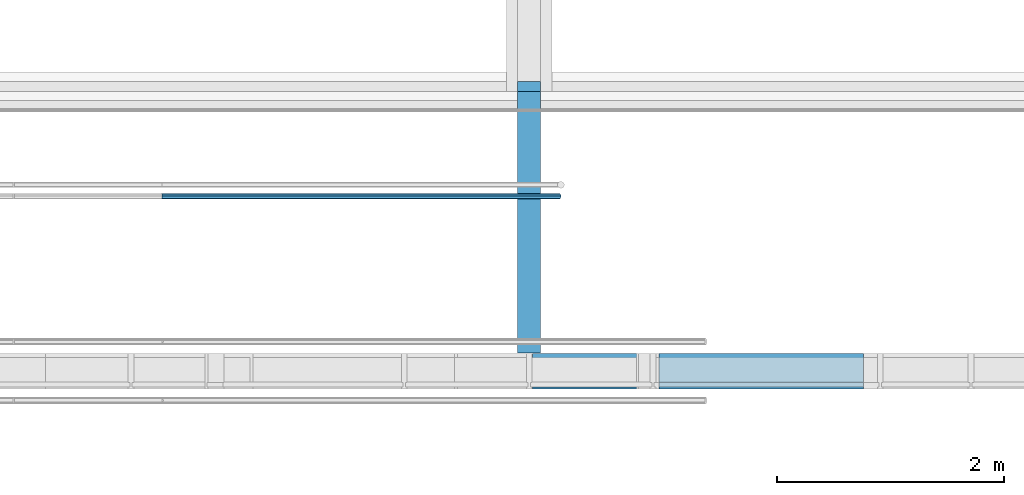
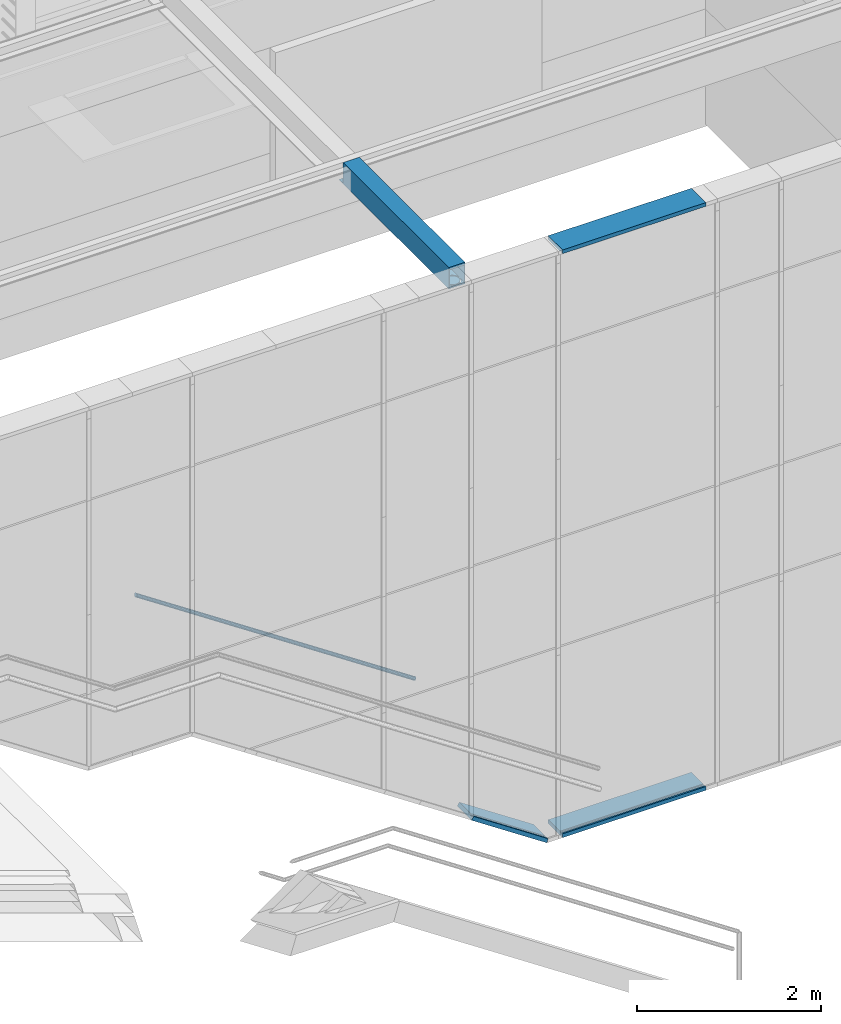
# One storey, part 18 of 137: 4 members, 1 beam, 2 elements without a shape of their own.
"""IFC2X3 building model written with IfcOpenShell, lengths in millimetres."""

from ifc_helpers import new_model, entity, si_unit, converted_unit, derived_unit, money_unit, direction, frame, origin_with_axes, place, context, subcontext, project, spatial, faceted_brep, material, type_object, element, aggregate, save


model = new_model("IFC2X3")

# Units and contexts
model_context = context("Model", 3, precision=0.01, world=origin_with_axes(), true_north=direction((0.0, 1.0)))
body_context = subcontext(model_context, "Body", "Model", "MODEL_VIEW")
ifc_project = project(units=[si_unit("LENGTHUNIT", "METRE", prefix="MILLI"), si_unit("AREAUNIT", "SQUARE_METRE"), si_unit("VOLUMEUNIT", "CUBIC_METRE"), converted_unit("PLANEANGLEUNIT", "DEGREE", entity("IfcPlaneAngleMeasure", 0.0174532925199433), si_unit("PLANEANGLEUNIT", "RADIAN"), dimensions=[0, 0, 0, 0, 0, 0, 0]), money_unit("EUR"), converted_unit("TIMEUNIT", "Year", entity("IfcTimeMeasure", 31556926.0), si_unit("TIMEUNIT", "SECOND"), dimensions=[0, 0, 1, 0, 0, 0, 0]), si_unit("MASSUNIT", "GRAM", prefix="KILO"), si_unit("THERMODYNAMICTEMPERATUREUNIT", "DEGREE_CELSIUS"), si_unit("LUMINOUSINTENSITYUNIT", "LUMEN"), si_unit("ENERGYUNIT", "JOULE", prefix="MEGA"), derived_unit("THERMALCONDUCTANCEUNIT", [(si_unit("POWERUNIT", "WATT"), 1), (si_unit("LENGTHUNIT", "METRE"), -1), (si_unit("THERMODYNAMICTEMPERATUREUNIT", "KELVIN"), -1)]), derived_unit("SPECIFICHEATCAPACITYUNIT", [(si_unit("ENERGYUNIT", "JOULE"), 1), (si_unit("MASSUNIT", "GRAM", prefix="KILO"), -1), (si_unit("THERMODYNAMICTEMPERATUREUNIT", "KELVIN"), -1)]), derived_unit("MASSDENSITYUNIT", [(si_unit("MASSUNIT", "GRAM", prefix="KILO"), 1), (si_unit("VOLUMEUNIT", "CUBIC_METRE"), -1)])], contexts=[model_context])

# Site, building, storey
site_placement = place(None, origin_with_axes())
site = spatial("IfcSite", under=ifc_project, at=site_placement, Name="Site", CompositionType="ELEMENT")
building_placement = place(site_placement, origin_with_axes())
building = spatial("IfcBuilding", under=site, at=building_placement, Name="Naam gebouw", CompositionType="ELEMENT")
storey_placement = place(building_placement, frame((0.0, 0.0, 3960.0), z_axis=(0.0, 0.0, 1.0), x_axis=(1.0, 0.0, 0.0)))
storey = spatial("IfcBuildingStorey", under=building, at=storey_placement, Name="1e verdieping", CompositionType="ELEMENT", Elevation=3960.0)

# Beam
ifc_material_1 = material(Name="Metaal - Staal C")
beam_type = type_object("IfcBeamType", Name="28 THQ zonder flens 01 202 x 285", PredefinedType="BEAM")
beam_placement = place(storey_placement, frame((17699.9994245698, 4480.0, 3859.999999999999), z_axis=(0.0, 0.0, 1.0), x_axis=(1.0, 0.0, 0.0)))
element("IfcBeam", 1, at=beam_placement, inside=storey, type_object=beam_type, material=ifc_material_1, Name="h METAAL_Regenwaterafvoer-x", ObjectType="BEAM", context=body_context, shape_type="Brep", body=[
    faceted_brep([(55.23723044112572, 163.7474765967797, -285.0000000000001), (70.95946302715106, 145.603052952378, -285.0000000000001), (80.93295985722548, 123.7641411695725, -285.0000000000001), (84.34972753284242, 99.99999999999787, -285.0000000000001), (80.93295985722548, 76.23585883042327, -285.0000000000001), (70.95946302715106, 54.39694704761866, -285.0000000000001), (55.23723044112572, 36.25252340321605, -285.0000000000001), (35.03998387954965, 23.27254119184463, -285.0000000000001), (12.00398414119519, 16.50856137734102, -285.0000000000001), (-12.00452907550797, 16.50856137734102, -285.0000000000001), (-35.04052881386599, 23.27254119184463, -285.0000000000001), (-55.23777537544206, 36.25252340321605, -285.0000000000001), (-70.9600079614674, 54.39694704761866, -285.0000000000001), (-80.93350479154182, 76.23585883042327, -285.0000000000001), (-84.35027246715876, 99.99999999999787, -285.0000000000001), (-80.93350479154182, 123.7641411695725, -285.0000000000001), (-70.9600079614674, 145.603052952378, -285.0000000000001), (-55.23777537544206, 163.7474765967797, -285.0000000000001), (-35.04052881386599, 176.7274588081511, -285.0000000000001), (-12.00452907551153, 183.4914386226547, -285.0000000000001), (12.00398414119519, 183.4914386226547, -285.0000000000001), (35.03998387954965, 176.7274588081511, -285.0000000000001), (55.23723044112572, 163.7474765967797, -264.9999709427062), (70.95946302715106, 145.603052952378, -264.9999709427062), (80.93295985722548, 123.7641411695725, -264.9999709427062), (84.34972753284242, 99.99999999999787, -264.9999709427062), (80.93295985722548, 76.23585883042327, -264.9999709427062), (70.95946302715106, 54.39694704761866, -264.9999709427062), (55.23723044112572, 36.25252340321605, -264.9999709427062), (35.03998387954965, 23.27254119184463, -264.9999709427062), (12.00398414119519, 16.50856137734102, -264.9999709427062), (-12.00452907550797, 16.50856137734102, -264.9999709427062), (-35.04052881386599, 23.27254119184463, -264.9999709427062), (-55.23777537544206, 36.25252340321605, -264.9999709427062), (-70.9600079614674, 54.39694704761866, -264.9999709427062), (-80.93350479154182, 76.23585883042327, -264.9999709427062), (-84.35027246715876, 99.99999999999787, -264.9999709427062), (-80.93350479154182, 123.7641411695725, -264.9999709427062), (-70.9600079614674, 145.603052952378, -264.9999709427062), (-55.23777537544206, 163.7474765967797, -264.9999709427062), (-35.04052881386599, 176.7274588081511, -264.9999709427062), (-12.00452907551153, 183.4914386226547, -264.9999709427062), (12.00398414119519, 183.4914386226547, -264.9999709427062), (35.03998387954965, 176.7274588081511, -264.9999709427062)], [[[0, 1, 2, 3, 4, 5, 6, 7, 8, 9, 10, 11, 12, 13, 14, 15, 16, 17, 18, 19, 20, 21]], [[0, 22, 23, 1]], [[1, 23, 24, 2]], [[2, 24, 25, 3]], [[3, 25, 26, 4]], [[4, 26, 27, 5]], [[5, 27, 28, 6]], [[6, 28, 29, 7]], [[7, 29, 30, 8]], [[8, 30, 31, 9]], [[9, 31, 32, 10]], [[10, 32, 33, 11]], [[11, 33, 34, 12]], [[12, 34, 35, 13]], [[13, 35, 36, 14]], [[14, 36, 37, 15]], [[15, 37, 38, 16]], [[16, 38, 39, 17]], [[17, 39, 40, 18]], [[18, 40, 41, 19]], [[19, 41, 42, 20]], [[20, 42, 43, 21]], [[21, 43, 22, 0]], [[28, 27, 26, 25, 24, 23, 22, 43, 42, 41, 40, 39, 38, 37, 36, 35, 34, 33, 32, 31, 30, 29]]]),
    faceted_brep([(55.23723044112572, 163.7474765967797, -34.99999763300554), (70.95946302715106, 145.603052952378, -34.99999763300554), (80.93295985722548, 123.7641411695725, -34.99999763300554), (84.34972753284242, 99.99999999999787, -34.99999763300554), (80.93295985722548, 76.23585883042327, -34.99999763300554), (70.95946302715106, 54.39694704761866, -34.99999763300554), (55.23723044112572, 36.25252340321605, -34.99999763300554), (35.03998387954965, 23.27254119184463, -34.99999763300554), (12.00398414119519, 16.50856137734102, -34.99999763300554), (-12.00452907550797, 16.50856137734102, -34.99999763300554), (-35.04052881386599, 23.27254119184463, -34.99999763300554), (-55.23777537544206, 36.25252340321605, -34.99999763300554), (-70.9600079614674, 54.39694704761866, -34.99999763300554), (-80.93350479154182, 76.23585883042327, -34.99999763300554), (-84.35027246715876, 99.99999999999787, -34.99999763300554), (-80.93350479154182, 123.7641411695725, -34.99999763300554), (-70.9600079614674, 145.603052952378, -34.99999763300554), (-55.23777537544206, 163.7474765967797, -34.99999763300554), (-35.04052881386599, 176.7274588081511, -34.99999763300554), (-12.00452907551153, 183.4914386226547, -34.99999763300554), (12.00398414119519, 183.4914386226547, -34.99999763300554), (35.03998387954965, 176.7274588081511, -34.99999763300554), (70.95946302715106, 145.603052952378, -24.00000000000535), (55.23723044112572, 163.7474765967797, -24.00000000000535), (80.93295985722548, 123.7641411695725, -24.00000000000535), (84.34972753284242, 99.99999999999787, -24.00000000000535), (80.93295985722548, 76.23585883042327, -24.00000000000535), (70.95946302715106, 54.39694704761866, -24.00000000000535), (55.23723044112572, 36.25252340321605, -24.00000000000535), (35.03998387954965, 23.27254119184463, -24.00000000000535), (12.00398414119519, 16.50856137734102, -24.00000000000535), (-12.00452907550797, 16.50856137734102, -24.00000000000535), (-35.04052881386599, 23.27254119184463, -24.00000000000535), (-55.23777537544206, 36.25252340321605, -24.00000000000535), (-70.9600079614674, 54.39694704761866, -24.00000000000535), (-80.93350479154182, 76.23585883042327, -24.00000000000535), (-84.35027246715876, 99.99999999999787, -24.00000000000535), (-80.93350479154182, 123.7641411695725, -24.00000000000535), (-70.9600079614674, 145.603052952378, -24.00000000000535), (-55.23777537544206, 163.7474765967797, -24.00000000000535), (-35.04052881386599, 176.7274588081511, -24.00000000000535), (-12.00452907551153, 183.4914386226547, -24.00000000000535), (12.00398414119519, 183.4914386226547, -24.00000000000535), (35.03998387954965, 176.7274588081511, -24.00000000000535), (92.92662202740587, 127.2857981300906, -24.00000000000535), (96.84972753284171, 99.99999999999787, -24.00000000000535), (92.92662202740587, 72.71420186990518, -24.00000000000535), (81.47513218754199, 47.638936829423, -24.00000000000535), (63.42298961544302, 26.8056537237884, -24.00000000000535), (40.23267154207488, 11.90214124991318, -24.00000000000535), (13.78291961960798, 4.13579335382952, -24.00000000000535), (-13.78346455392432, 4.13579335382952, -24.00000000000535), (-40.23321647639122, 11.90214124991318, -24.00000000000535), (-63.42353454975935, 26.8056537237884, -24.00000000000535), (-81.47567712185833, 47.638936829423, -24.00000000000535), (-92.92716696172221, 72.71420186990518, -24.00000000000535), (-96.85027246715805, 99.99999999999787, -24.00000000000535), (-92.92716696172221, 127.2857981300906, -24.00000000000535), (-81.47567712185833, 152.3610631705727, -24.00000000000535), (-63.42353454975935, 173.1943462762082, -24.00000000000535), (-40.23321647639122, 188.0978587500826, -24.00000000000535), (-13.78346455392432, 195.8642066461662, -24.00000000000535), (13.78291961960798, 195.8642066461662, -24.00000000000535), (40.23267154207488, 188.0978587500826, -24.00000000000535), (63.42298961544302, 173.1943462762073, -24.00000000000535), (81.47513218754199, 152.3610631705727, -24.00000000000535), (92.92662202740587, 127.2857981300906, -264.9999709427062), (92.92662202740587, 127.2857981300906, -285.0000000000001), (96.84972753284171, 99.99999999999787, -285.0000000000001), (92.92662202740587, 127.2857981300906, -34.99999763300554), (95.00000665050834, 112.8650913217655, -34.99999763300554), (95.00000632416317, 112.8650935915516, -264.9999998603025), (92.92662202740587, 72.71420186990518, -285.0000000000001), (92.92662202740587, 72.71420186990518, -264.9999709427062), (95.00000639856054, 87.13490692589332, -265.000000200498), (95.00000665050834, 87.13490867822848, -34.99999763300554), (92.92662202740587, 72.71420186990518, -34.99999763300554), (81.47513218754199, 47.638936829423, -34.99999763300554), (63.42298961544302, 26.8056537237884, -34.99999763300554), (40.23267154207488, 11.90214124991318, -34.99999763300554), (13.78291961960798, 4.13579335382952, -34.99999763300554), (-13.78346455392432, 4.13579335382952, -34.99999763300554), (-40.23321647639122, 11.90214124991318, -34.99999763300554), (-63.42353454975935, 26.8056537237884, -34.99999763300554), (-81.47567712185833, 47.638936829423, -34.99999763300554), (-92.92716696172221, 72.71420186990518, -34.99999763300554), (-95.00000318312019, 87.13109446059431, -34.99999763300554), (-95.00000306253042, 87.13109362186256, -265.0000002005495), (-92.92716696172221, 72.71420186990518, -264.9999709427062), (-92.92716696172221, 72.71420186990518, -285.0000000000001), (-96.85027246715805, 99.99999999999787, -285.0000000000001), (-95.00000302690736, 112.8689066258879, -264.9999998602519), (-95.00000318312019, 112.8689055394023, -34.99999763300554), (-92.92716696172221, 127.2857981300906, -34.99999763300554), (-92.92716696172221, 127.2857981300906, -285.0000000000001), (-92.92716696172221, 127.2857981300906, -264.9999709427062), (-81.47567712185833, 152.3610631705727, -34.99999763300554), (-63.42353454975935, 173.1943462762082, -34.99999763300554), (-40.23321647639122, 188.0978587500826, -34.99999763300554), (-13.78346455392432, 195.8642066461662, -34.99999763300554), (13.78291961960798, 195.8642066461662, -34.99999763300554), (40.23267154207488, 188.0978587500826, -34.99999763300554), (63.42298961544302, 173.1943462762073, -34.99999763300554), (81.47513218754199, 152.3610631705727, -34.99999763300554), (81.47513218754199, 152.3610631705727, -264.9999709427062), (81.47513218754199, 152.3610631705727, -285.0000000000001), (-101.0000036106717, 0.0, -285.0000000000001), (-101.0000036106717, 2389.999999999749, -285.0000000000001), (101.0000022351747, 2389.999999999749, -285.0000000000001), (101.0000022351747, 0.0, -285.0000000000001), (63.42298961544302, 26.8056537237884, -285.0000000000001), (81.47513218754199, 47.638936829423, -285.0000000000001), (63.42298961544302, 173.1943462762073, -285.0000000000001), (40.23267154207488, 188.0978587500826, -285.0000000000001), (13.78291961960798, 195.8642066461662, -285.0000000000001), (-13.78346455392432, 195.8642066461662, -285.0000000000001), (-40.23321647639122, 188.0978587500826, -285.0000000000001), (-63.42353454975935, 173.1943462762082, -285.0000000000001), (-81.47567712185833, 152.3610631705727, -285.0000000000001), (-81.47567712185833, 47.638936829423, -285.0000000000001), (-63.42353454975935, 26.8056537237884, -285.0000000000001), (-40.23321647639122, 11.90214124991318, -285.0000000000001), (-13.78346455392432, 4.13579335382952, -285.0000000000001), (13.78291961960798, 4.13579335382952, -285.0000000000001), (40.23267154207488, 11.90214124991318, -285.0000000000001), (-95.00000318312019, 2299.999999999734, -34.99999763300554), (95.00000665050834, 2299.99999999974, -34.99999763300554), (95.00000000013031, 2299.999999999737, -264.9999709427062), (95.00000000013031, 2299.999999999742, -259.9999999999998), (-94.99999999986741, 2299.999999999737, -264.9999709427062), (-81.47567712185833, 152.3610631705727, -264.9999709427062), (-63.42353454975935, 173.1943462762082, -264.9999709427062), (-40.23321647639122, 188.0978587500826, -264.9999709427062), (-13.78346455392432, 195.8642066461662, -264.9999709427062), (13.78291961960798, 195.8642066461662, -264.9999709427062), (40.23267154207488, 188.0978587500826, -264.9999709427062), (63.42298961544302, 173.1943462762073, -264.9999709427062), (81.47513218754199, 47.638936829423, -264.9999709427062), (-81.47567712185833, 47.638936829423, -264.9999709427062), (-95.00000318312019, 0.0, -265.0000013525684), (95.00000665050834, 0.0, -265.0000013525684), (63.42298961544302, 26.8056537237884, -264.9999709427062), (40.23267154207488, 11.90214124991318, -264.9999709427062), (13.78291961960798, 4.13579335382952, -264.9999709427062), (-13.78346455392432, 4.13579335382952, -264.9999709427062), (-40.23321647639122, 11.90214124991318, -264.9999709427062), (-63.42353454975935, 26.8056537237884, -264.9999709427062), (95.00000665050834, 0.0, -34.99999763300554), (-95.00000318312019, 0.0, -34.99999763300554), (-94.99999999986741, 2299.999999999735, -259.9999999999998), (-100.9999999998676, 2299.999999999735, -259.9999999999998), (-100.9999999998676, 2299.999999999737, -264.9999709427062), (-101.0000036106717, 2299.999999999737, -279.9999709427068), (-101.0000036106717, 2389.999999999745, -279.9999709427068), (-101.0000036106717, 0.0, 0.0), (-101.0000036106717, 2299.999999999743, 2.078693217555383e-05), (101.0000022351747, 2389.999999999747, -279.9999709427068), (101.0000022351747, 2299.999999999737, -279.9999709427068), (101.0000000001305, 2299.999999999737, -264.9999709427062), (101.0000000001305, 2299.999999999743, -259.9999999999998), (101.0000022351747, 2299.999999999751, 2.102552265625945e-05), (101.0000022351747, 0.0, 0.0)], [[[0, 1, 2, 3, 4, 5, 6, 7, 8, 9, 10, 11, 12, 13, 14, 15, 16, 17, 18, 19, 20, 21]], [[22, 1, 0, 23]], [[24, 2, 1, 22]], [[25, 3, 2, 24]], [[26, 4, 3, 25]], [[27, 5, 4, 26]], [[28, 6, 5, 27]], [[29, 7, 6, 28]], [[30, 8, 7, 29]], [[31, 9, 8, 30]], [[32, 10, 9, 31]], [[33, 11, 10, 32]], [[34, 12, 11, 33]], [[35, 13, 12, 34]], [[36, 14, 13, 35]], [[37, 15, 14, 36]], [[38, 16, 15, 37]], [[39, 17, 16, 38]], [[40, 18, 17, 39]], [[41, 19, 18, 40]], [[42, 20, 19, 41]], [[43, 21, 20, 42]], [[23, 0, 21, 43]], [[44, 45, 46, 47, 48, 49, 50, 51, 52, 53, 54, 55, 56, 57, 58, 59, 60, 61, 62, 63, 64, 65], [26, 25, 24, 22, 23, 43, 42, 41, 40, 39, 38, 37, 36, 35, 34, 33, 32, 31, 30, 29, 28, 27]], [[66, 67, 68, 45, 44, 69, 70, 71]], [[45, 68, 72, 73, 74, 75, 76, 46]], [[46, 76, 77, 47]], [[47, 77, 78, 48]], [[48, 78, 79, 49]], [[49, 79, 80, 50]], [[50, 80, 81, 51]], [[51, 81, 82, 52]], [[52, 82, 83, 53]], [[53, 83, 84, 54]], [[54, 84, 85, 55]], [[55, 85, 86, 87, 88, 89, 90, 56]], [[91, 92, 93, 57, 56, 90, 94, 95]], [[57, 93, 96, 58]], [[58, 96, 97, 59]], [[59, 97, 98, 60]], [[60, 98, 99, 61]], [[61, 99, 100, 62]], [[62, 100, 101, 63]], [[63, 101, 102, 64]], [[64, 102, 103, 65]], [[65, 103, 69, 44]], [[67, 66, 104, 105]], [[106, 107, 108, 109], [110, 111, 72, 68, 67, 105, 112, 113, 114, 115, 116, 117, 118, 94, 90, 89, 119, 120, 121, 122, 123, 124]], [[96, 93, 92, 125, 126, 70, 69, 103, 102, 101, 100, 99, 98, 97]], [[127, 71, 70, 126, 128]], [[104, 66, 71, 127, 129, 91, 95, 130, 131, 132, 133, 134, 135, 136]], [[111, 137, 73, 72]], [[138, 88, 87, 139, 140, 74, 73, 137, 141, 142, 143, 144, 145, 146]], [[147, 75, 74, 140]], [[78, 77, 76, 75, 147, 148, 86, 85, 84, 83, 82, 81, 80, 79]], [[139, 87, 86, 148]], [[89, 88, 138, 119]], [[125, 92, 91, 129, 149]], [[118, 130, 95, 94]], [[105, 104, 136, 112]], [[150, 151, 152, 153, 107, 106, 154, 155]], [[108, 107, 153, 156]], [[156, 157, 158, 159, 160, 161, 109, 108]], [[161, 154, 106, 109], [147, 140, 139, 148]], [[110, 141, 137, 111]], [[112, 136, 135, 113]], [[113, 135, 134, 114]], [[114, 134, 133, 115]], [[115, 133, 132, 116]], [[116, 132, 131, 117]], [[117, 131, 130, 118]], [[119, 138, 146, 120]], [[120, 146, 145, 121]], [[121, 145, 144, 122]], [[122, 144, 143, 123]], [[123, 143, 142, 124]], [[124, 142, 141, 110]], [[152, 151, 150, 155, 160, 159, 158, 157], [126, 125, 149, 129, 127, 128]], [[153, 152, 157, 156]], [[155, 154, 161, 160]]]),
])

# Railing, member
railing_type = type_object("IfcRailingType", Name="Railing Type", PredefinedType="NOTDEFINED")
railing_placement = place(storey_placement, frame((18520.00002097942, 5850.000227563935, -3240.0), z_axis=(0.0, 0.0, 1.0), x_axis=(1.0, 0.0, 0.0)))
railing = element("IfcRailing", 2, at=railing_placement, inside=storey, type_object=railing_type, Name="34_Reling-x", PredefinedType="NOTDEFINED")
ifc_material_2 = material(Name="Metaal - RVS")
member_type_1 = type_object("IfcMemberType", Name="IfcMember", PredefinedType="USERDEFINED")
member_1_placement = place(railing_placement, frame((-2294.999996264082, 9.999883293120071, 645.9989583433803), z_axis=(0.0, 0.0, 1.0), x_axis=(1.0, 0.0, 0.0)))
member_1 = element("IfcMember", 3, at=member_1_placement, type_object=member_type_1, material=ifc_material_2, Name="h3 Staal legeringen_Handregel-x", context=body_context, shape_type="Brep", body=[
    faceted_brep([(1741.603991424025, -24.14990937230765, 33.90702704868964), (1743.930184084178, -23.78301648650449, 37.39631606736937), (-1761.042316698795, -23.78319700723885, 2374.044645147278), (-1762.312037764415, -24.15008944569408, 2369.851041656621), (1739.277798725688, -23.78301672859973, 30.41773803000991), (1737.022286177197, -22.69348640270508, 27.03446929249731), (1734.905986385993, -20.91442322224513, 23.86001974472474), (1732.993202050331, -18.49988312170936, 20.99084342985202), (1731.342052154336, -15.52323068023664, 18.51411881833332), (1730.002706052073, -12.07490997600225, 16.50509993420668), (1729.015859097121, -8.2596964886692, 15.02482979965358), (1728.411496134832, -4.193513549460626, 14.11828567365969), (1728.207980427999, 8.993060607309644e-05, 13.81301244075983), (1728.411495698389, 4.193693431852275, 14.11828567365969), (1729.015858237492, 8.259876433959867, 15.02482979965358), (1730.002704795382, 12.07509002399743, 16.50509993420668), (1731.342050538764, 15.52341086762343, 18.51411881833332), (1732.993200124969, 18.50006348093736, 20.99084342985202), (1734.905984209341, 20.91460378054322, 23.86001974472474), (1737.022283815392, 22.69366718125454, 27.03446929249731), (1739.277796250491, 23.78319774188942, 30.41773803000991), (1741.60398891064, 24.15009062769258, 33.90702704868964), (1743.930181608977, 23.78319798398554, 37.39631606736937), (1746.185694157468, 22.69366765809, 40.77958480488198), (1748.301993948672, 20.91460447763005, 43.95403435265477), (1750.214778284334, 18.50006437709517, 46.8232106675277), (1751.86592818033, 15.52341193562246, 49.2999352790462), (1753.205274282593, 12.07509123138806, 51.30895416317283), (1754.192121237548, 8.25987774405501, 52.78922429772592), (1754.796484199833, 4.193694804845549, 53.69576842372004), (1754.999999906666, 9.132477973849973e-05, 54.0010416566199), (1754.796484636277, -4.193512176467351, 53.69576842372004), (1754.192122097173, -8.259695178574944, 52.78922429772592), (1753.205275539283, -12.0749087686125, 51.30895416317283), (1751.865929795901, -15.52322961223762, 49.2999352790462), (1750.214780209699, -18.49988222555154, 46.8232106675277), (1748.301996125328, -20.91442252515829, 43.95403435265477), (1746.185696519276, -22.69348592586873, 40.77958480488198), (-1759.811175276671, -22.69366688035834, 2378.110828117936), (-1758.656021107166, -20.9146038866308, 2381.926041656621), (-1757.611952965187, -18.50006395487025, 2385.374362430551), (-1756.710694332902, -15.52341165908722, 2388.351014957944), (-1755.979629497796, -12.07509107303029, 2390.765555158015), (-1755.440971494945, -8.259877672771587, 2392.5446184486), (-1755.111087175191, -4.193694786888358, 2393.634148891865), (-1754.999999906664, -9.132477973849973e-05, 2394.00104165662), (-1755.111085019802, 4.193512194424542, 2393.634148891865), (-1755.440967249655, 8.25969524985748, 2392.5446184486), (-1755.979623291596, 12.07490892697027, 2390.765555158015), (-1756.710686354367, 15.52322988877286, 2388.351014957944), (-1757.611943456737, 18.49988264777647, 2385.374362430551), (-1758.656010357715, 20.91442311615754, 2381.926041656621), (-1759.811163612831, 22.69348670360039, 2378.110828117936), (-1761.04230447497, 23.78301746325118, 2374.044645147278), (-1762.312025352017, 24.14991055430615, 2369.851041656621), (-1763.581746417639, 23.78301811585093, 2365.657438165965), (-1764.812887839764, 22.69348798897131, 2361.591255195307), (-1765.968042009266, 20.91442499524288, 2357.776041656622), (-1767.012110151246, 18.49988506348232, 2354.327720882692), (-1767.913368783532, 15.52323276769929, 2351.351068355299), (-1768.644433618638, 12.07491218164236, 2348.936528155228), (-1769.183091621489, 8.25969878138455, 2347.157464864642), (-1769.512975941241, 4.193515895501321, 2346.067934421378), (-1769.624063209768, -8.75666081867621e-05, 2345.701041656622), (-1769.512978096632, -4.193691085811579, 2346.067934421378), (-1769.183095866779, -8.259874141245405, 2347.157464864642), (-1768.644439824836, -12.07508781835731, 2348.936528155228), (-1767.913376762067, -15.52340878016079, 2351.351068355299), (-1767.012119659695, -18.50006153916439, 2354.327720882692), (-1765.968052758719, -20.91460200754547, 2357.776041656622), (-1764.812899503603, -22.69366559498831, 2361.591255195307), (-1763.581758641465, -23.7831963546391, 2365.657438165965)], [[[0, 1, 2, 3]], [[0, 4, 5, 6, 7, 8, 9, 10, 11, 12, 13, 14, 15, 16, 17, 18, 19, 20, 21, 22, 23, 24, 25, 26, 27, 28, 29, 30, 31, 32, 33, 34, 35, 36, 37, 1]], [[1, 37, 38, 2]], [[3, 2, 38, 39, 40, 41, 42, 43, 44, 45, 46, 47, 48, 49, 50, 51, 52, 53, 54, 55, 56, 57, 58, 59, 60, 61, 62, 63, 64, 65, 66, 67, 68, 69, 70, 71]], [[4, 0, 3, 71]], [[5, 4, 71, 70]], [[6, 5, 70, 69]], [[7, 6, 69, 68]], [[8, 7, 68, 67]], [[9, 8, 67, 66]], [[10, 9, 66, 65]], [[11, 10, 65, 64]], [[12, 11, 64, 63]], [[13, 12, 63, 62]], [[14, 13, 62, 61]], [[15, 14, 61, 60]], [[16, 15, 60, 59]], [[17, 16, 59, 58]], [[18, 17, 58, 57]], [[19, 18, 57, 56]], [[20, 19, 56, 55]], [[21, 20, 55, 54]], [[22, 21, 54, 53]], [[23, 22, 53, 52]], [[24, 23, 52, 51]], [[25, 24, 51, 50]], [[26, 25, 50, 49]], [[27, 26, 49, 48]], [[28, 27, 48, 47]], [[29, 28, 47, 46]], [[30, 29, 46, 45]], [[31, 30, 45, 44]], [[32, 31, 44, 43]], [[33, 32, 43, 42]], [[34, 33, 42, 41]], [[35, 34, 41, 40]], [[36, 35, 40, 39]], [[37, 36, 39, 38]]]),
])
aggregate(railing, [member_1])

# Curtain wall, members
curtain_wall_type = type_object("IfcCurtainWallType", Name="Curtain Wall Type", PredefinedType="NOTDEFINED")
curtain_wall_placement = place(storey_placement, frame((8473.014787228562, 4364.43626274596, -3949.999921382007), z_axis=(0.0, 0.0, 1.0), x_axis=(1.0, 0.0, 0.0)))
curtain_wall = element("IfcCurtainWall", 4, at=curtain_wall_placement, inside=storey, type_object=curtain_wall_type, Name="21_Vliesgevel-x")
ifc_material_3 = material(Name="Metaal - Staal AFW")
member_type_2 = type_object("IfcMemberType", Name="Boundary Frame 50 x 313", PredefinedType="MULLION")
member_2_placement = place(curtain_wall_placement, frame((10369.94164561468, -161.4362627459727, 3.861439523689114e-05), z_axis=(1.0, 0.0, 0.0), x_axis=(0.0, 0.0, 1.0)))
member_2 = element("IfcMember", 5, at=member_2_placement, type_object=member_type_2, material=ifc_material_3, Name="h METAAL_Kader-x", ObjectType="MULLION", context=body_context, shape_type="Brep", body=[
    faceted_brep([(35.0, -17.4000000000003, 0.0), (35.0, 20.99999999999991, 0.0), (35.0, 20.99999999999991, 1800.000000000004), (35.0, -17.4000000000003, 1800.000000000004), (15.0, -17.4000000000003, 0.0), (15.0, 20.99999999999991, 0.0), (15.0, 20.99999999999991, 1800.000000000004), (15.0, -17.4000000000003, 1800.000000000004)], [[[0, 1, 2, 3]], [[0, 4, 5, 1]], [[1, 5, 6, 2]], [[3, 2, 6, 7]], [[4, 0, 3, 7]], [[5, 4, 7, 6]]]),
    faceted_brep([(15.0, -20.99999999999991, 0.0), (15.0, 20.99999999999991, 0.0), (15.0, 20.99999999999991, 1800.000000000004), (15.0, -20.99999999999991, 1800.000000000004), (0.0, -20.99999999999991, 0.0), (0.0, 20.99999999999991, 0.0), (0.0, 20.99999999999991, 1800.000000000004), (0.0, -20.99999999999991, 1800.000000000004)], [[[0, 1, 2, 3]], [[0, 4, 5, 1]], [[1, 5, 6, 2]], [[3, 2, 6, 7]], [[4, 0, 3, 7]], [[5, 4, 7, 6]]]),
    faceted_brep([(49.99999999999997, -272.0000000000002, 0.0), (50.0, -17.4000000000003, 0.0), (50.0, -17.4000000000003, 1800.000000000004), (49.99999999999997, -272.0000000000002, 1800.000000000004), (0.0, -272.0000000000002, 0.0), (0.0, -17.4000000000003, 0.0), (0.0, -17.4000000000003, 1800.000000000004), (0.0, -272.0000000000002, 1800.000000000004)], [[[0, 1, 2, 3]], [[0, 4, 5, 1]], [[1, 5, 6, 2]], [[3, 2, 6, 7]], [[4, 0, 3, 7]], [[5, 4, 7, 6]]]),
    faceted_brep([(0.0, 41.00000000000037, 0.0), (0.0, 20.99999999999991, 0.0), (0.0, 20.99999999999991, 1800.000000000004), (0.0, 41.00000000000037, 1800.000000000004), (50.00000000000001, 41.00000000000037, 0.0), (50.0, 20.99999999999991, 0.0), (50.0, 20.99999999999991, 1800.000000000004), (50.00000000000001, 41.00000000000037, 1800.000000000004)], [[[0, 1, 2, 3]], [[0, 4, 5, 1]], [[1, 5, 6, 2]], [[3, 2, 6, 7]], [[4, 0, 3, 7]], [[5, 4, 7, 6]]]),
])
member_3_placement = place(curtain_wall_placement, frame((9226.979721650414, -161.4362627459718, 631.2872051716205), z_axis=(0.8320503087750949, 0.0, -0.5547001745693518), x_axis=(0.5547001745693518, 0.0, 0.8320503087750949)))
member_3 = element("IfcMember", 6, at=member_3_placement, type_object=member_type_2, material=ifc_material_3, Name="h METAAL_Kader-x", ObjectType="MULLION", context=body_context, shape_type="Brep", body=[
    faceted_brep([(35.00000000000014, -17.4000000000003, 0.0), (35.00000000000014, 20.99999999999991, 0.0), (34.99999999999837, 20.99999999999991, 1127.472021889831), (34.99999999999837, -17.4000000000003, 1127.472021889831), (15.00000000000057, -17.4000000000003, 0.0), (15.00000000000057, 20.99999999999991, 0.0), (15.00000000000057, 20.99999999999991, 1133.527534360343), (15.00000000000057, -17.4000000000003, 1133.527534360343)], [[[0, 1, 2, 3]], [[0, 4, 5, 1]], [[1, 5, 6, 2]], [[3, 2, 6, 7]], [[4, 0, 3, 7]], [[5, 4, 7, 6]]]),
    faceted_brep([(15.00000000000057, -20.99999999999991, 0.0), (15.00000000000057, 20.99999999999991, 0.0), (15.00000000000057, 20.99999999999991, 1133.527534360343), (15.00000000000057, -20.99999999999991, 1133.527534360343), (0.0, -20.99999999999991, 0.0), (0.0, 20.99999999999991, 0.0), (0.0, 20.99999999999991, 1138.069168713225), (0.0, -20.99999999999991, 1138.069168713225)], [[[0, 1, 2, 3]], [[0, 4, 5, 1]], [[1, 5, 6, 2]], [[3, 2, 6, 7]], [[4, 0, 3, 7]], [[5, 4, 7, 6]]]),
    faceted_brep([(50.00000000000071, -272.0000000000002, 0.0), (50.00000000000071, -17.4000000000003, 0.0), (49.99999999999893, -17.4000000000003, 1122.930387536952), (49.99999999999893, -272.0000000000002, 1122.930387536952), (0.0, -272.0000000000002, 0.0), (0.0, -17.4000000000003, 0.0), (0.0, -17.4000000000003, 1138.069168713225), (0.0, -272.0000000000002, 1138.069168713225)], [[[0, 1, 2, 3]], [[0, 4, 5, 1]], [[1, 5, 6, 2]], [[3, 2, 6, 7]], [[4, 0, 3, 7]], [[5, 4, 7, 6]]]),
    faceted_brep([(0.0, 41.00000000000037, 0.0), (0.0, 20.99999999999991, 0.0), (0.0, 20.99999999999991, 1138.069168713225), (0.0, 41.00000000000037, 1138.069168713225), (50.00000000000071, 41.00000000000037, 0.0), (50.00000000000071, 20.99999999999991, 0.0), (49.99999999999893, 20.99999999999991, 1122.930387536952), (49.99999999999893, 41.00000000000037, 1122.930387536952)], [[[0, 1, 2, 3]], [[0, 4, 5, 1]], [[1, 5, 6, 2]], [[3, 2, 6, 7]], [[4, 0, 3, 7]], [[5, 4, 7, 6]]]),
])
member_4_placement = place(curtain_wall_placement, frame((10369.94164561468, -161.4362627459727, 7800.000020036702), z_axis=(1.0, 0.0, 0.0), x_axis=(0.0, 0.0, 1.0)))
member_4 = element("IfcMember", 7, at=member_4_placement, type_object=member_type_2, material=ifc_material_3, Name="h METAAL_Kader-x", ObjectType="MULLION", context=body_context, shape_type="Brep", body=[
    faceted_brep([(-35.00000000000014, -17.4000000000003, 0.0), (-35.00000000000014, -17.4000000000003, 1800.000000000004), (-35.00000000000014, 20.99999999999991, 1800.000000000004), (-35.00000000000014, 20.99999999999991, 0.0), (-14.99999999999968, -17.4000000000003, 0.0), (-14.99999999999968, -17.4000000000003, 1800.000000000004), (-14.99999999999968, 20.99999999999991, 1800.000000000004), (-14.99999999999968, 20.99999999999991, 0.0)], [[[0, 1, 2, 3]], [[4, 5, 1, 0]], [[1, 5, 6, 2]], [[3, 2, 6, 7]], [[0, 3, 7, 4]], [[7, 6, 5, 4]]]),
    faceted_brep([(-14.99999999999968, -20.99999999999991, 0.0), (-14.99999999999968, -20.99999999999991, 1800.000000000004), (-14.99999999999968, 20.99999999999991, 1800.000000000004), (-14.99999999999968, 20.99999999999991, 0.0), (0.0, -20.99999999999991, 0.0), (0.0, -20.99999999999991, 1800.000000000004), (0.0, 20.99999999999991, 1800.000000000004), (0.0, 20.99999999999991, 0.0)], [[[0, 1, 2, 3]], [[4, 5, 1, 0]], [[1, 5, 6, 2]], [[3, 2, 6, 7]], [[0, 3, 7, 4]], [[7, 6, 5, 4]]]),
    faceted_brep([(-49.99999999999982, -272.0000000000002, 0.0), (-49.99999999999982, -272.0000000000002, 1800.000000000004), (-49.99999999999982, -17.4000000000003, 1800.000000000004), (-49.99999999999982, -17.4000000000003, 0.0), (0.0, -272.0000000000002, 0.0), (0.0, -272.0000000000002, 1800.000000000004), (0.0, -17.4000000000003, 1800.000000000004), (0.0, -17.4000000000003, 0.0)], [[[0, 1, 2, 3]], [[4, 5, 1, 0]], [[1, 5, 6, 2]], [[3, 2, 6, 7]], [[0, 3, 7, 4]], [[7, 6, 5, 4]]]),
    faceted_brep([(0.0, 41.00000000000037, 0.0), (0.0, 41.00000000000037, 1800.000000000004), (0.0, 20.99999999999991, 1800.000000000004), (0.0, 20.99999999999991, 0.0), (-49.99999999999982, 41.00000000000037, 0.0), (-49.99999999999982, 41.00000000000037, 1800.000000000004), (-49.99999999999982, 20.99999999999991, 1800.000000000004), (-49.99999999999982, 20.99999999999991, 0.0)], [[[0, 1, 2, 3]], [[4, 5, 1, 0]], [[1, 5, 6, 2]], [[3, 2, 6, 7]], [[0, 3, 7, 4]], [[7, 6, 5, 4]]]),
])
aggregate(curtain_wall, [member_2, member_3, member_4])

save(model, "model.ifc")
